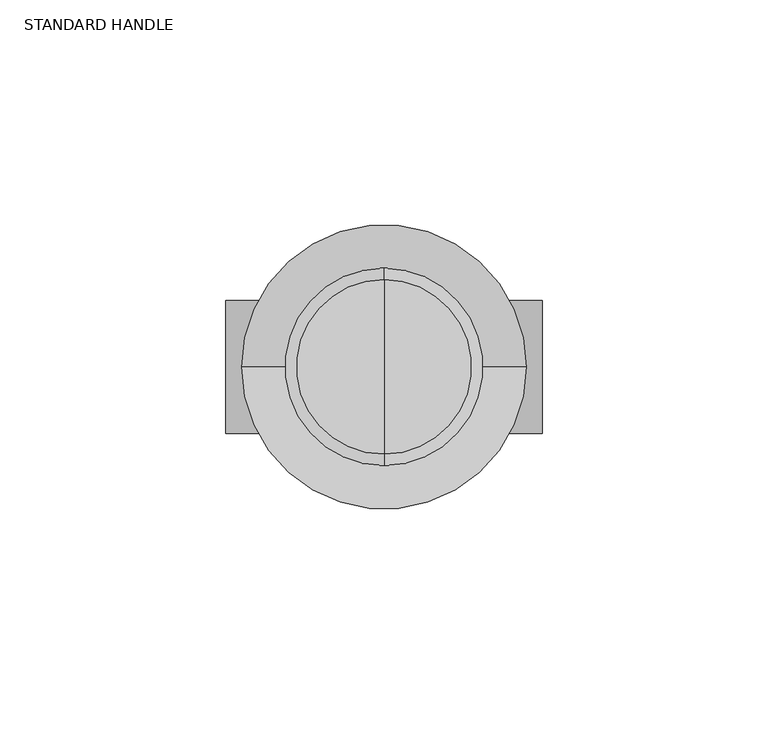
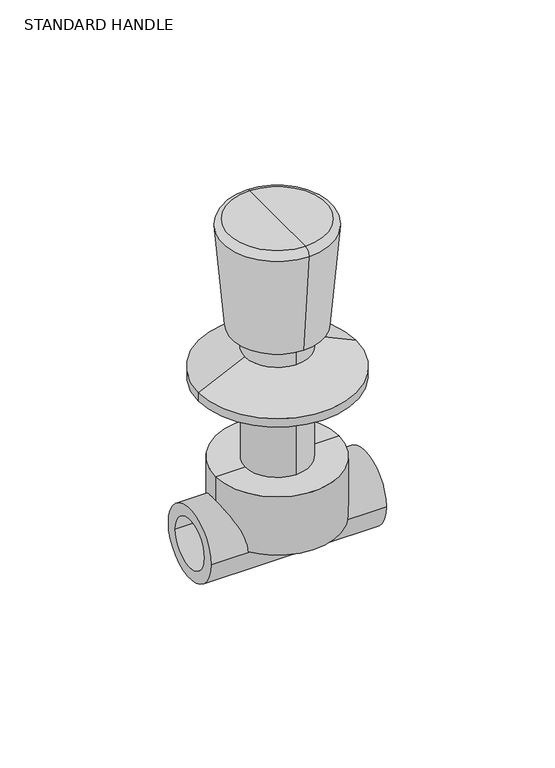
"""IFC4 building model written with IfcOpenShell, lengths in millimetres: valve geometry, Aquatherm - Concealed Valve Standard With Handle : STANDARD HANDLE."""

from ifc_helpers import new_model, si_unit, point, frame, origin, origin_2d, place, context, project, spatial, polyline, circle_curve, ellipse_curve, trimmed, segment, composite_curve, outline, extrude, source, transform, mapped, element, save
from ifc_brep_helpers import plane_surface, cylinder_surface, revolved_surface, advanced_brep


def standard_handle_8da0114c(model_context):
    return source(origin(), model_context, "Body", "SolidModel", [
        advanced_brep(
        [(0.0, 19.3406564, 124.968), (0.0, -19.3406564, 124.968), (0.0, 0.0, 124.968), (0.0, 21.870991, 122.2066244), (0.0, -21.870991, 122.2066244), (0.0, 18.2125979, 80.391), (0.0, -18.2125979, 80.391), (0.0, 12.9442633, 80.391), (0.0, -12.9442633, 80.391), (0.0, 12.9442633, 71.181595), (0.0, -12.9442633, 71.181595), (0.0, 0.0, 71.181595)],
        [
            (0, 1, circle_curve(frame((0.0, 0.0, 124.968), z_axis=(0.0, 0.0, 1.0), x_axis=(0.0, -1.0, 0.0)), 19.3406564)),
            (1, 2),
            (2, 0),
            (1, 0, circle_curve(frame((0.0, 0.0, 124.968), z_axis=(0.0, 0.0, 1.0), x_axis=(0.0, -1.0, 0.0)), 19.3406564)),
            (3, 4, circle_curve(frame((0.0, 0.0, 122.2066244), z_axis=(0.0, 0.0, 1.0), x_axis=(0.0, -1.0, 0.0)), 21.870991)),
            (4, 1, circle_curve(frame((0.0, -19.3406564, 122.428), z_axis=(-1.0, 0.0, 0.0), x_axis=(0.0, -1.0, 0.0)), 2.54)),
            (0, 3, circle_curve(frame((0.0, 19.3406564, 122.428), z_axis=(-1.0, 0.0, 0.0), x_axis=(0.0, 1.0, 0.0)), 2.54)),
            (4, 3, circle_curve(frame((0.0, 0.0, 122.2066244), z_axis=(0.0, 0.0, 1.0), x_axis=(0.0, -1.0, 0.0)), 21.870991)),
            (5, 6, circle_curve(frame((0.0, 0.0, 80.391), z_axis=(0.0, 0.0, 1.0), x_axis=(0.0, -1.0, 0.0)), 18.2125979)),
            (6, 4),
            (3, 5),
            (6, 5, circle_curve(frame((0.0, 0.0, 80.391), z_axis=(0.0, 0.0, 1.0), x_axis=(0.0, -1.0, 0.0)), 18.2125979)),
            (7, 8, circle_curve(frame((0.0, 0.0, 80.391), z_axis=(0.0, 0.0, 1.0), x_axis=(0.0, -1.0, 0.0)), 12.9442633)),
            (8, 6),
            (5, 7),
            (8, 7, circle_curve(frame((0.0, 0.0, 80.391), z_axis=(0.0, 0.0, 1.0), x_axis=(0.0, -1.0, 0.0)), 12.9442633)),
            (9, 10, circle_curve(frame((0.0, 0.0, 71.181595), z_axis=(0.0, 0.0, 1.0), x_axis=(0.0, -1.0, 0.0)), 12.9442633)),
            (10, 8),
            (7, 9),
            (10, 9, circle_curve(frame((0.0, 0.0, 71.181595), z_axis=(0.0, 0.0, 1.0), x_axis=(0.0, -1.0, 0.0)), 12.9442633)),
            (11, 10),
            (9, 11),
        ],
        [
            plane_surface(frame((0.0, 0.0, 124.968), z_axis=(0.0, 0.0, 1.0), x_axis=(0.0, -1.0, 0.0))),
            revolved_surface(trimmed(ellipse_curve(frame((0.0, -19.3406564, 122.428), z_axis=(1.0, 0.0, 0.0), x_axis=(0.0, -1.0, 0.0)), 2.54, 2.54), [point((0.0, -19.3406564, 124.968))], [point((0.0, -21.870991, 122.2066244))], True, "CARTESIAN"), (0.0, 0.0, 147.5476097), (0.0, 0.0, -1.0)),
            revolved_surface(polyline([(0.0, -21.870991, 122.2066244), (0.0, -18.2125979, 80.391)]), (0.0, 0.0, 147.5476097), (0.0, 0.0, -1.0)),
            plane_surface(frame((0.0, 0.0, 80.391), z_axis=(0.0, 0.0, -1.0), x_axis=(0.0, -1.0, 0.0))),
            cylinder_surface(frame((0.0, 0.0, 147.5476097), z_axis=(0.0, 0.0, -1.0), x_axis=(0.0, -1.0, 0.0)), 12.9442633),
            plane_surface(frame((0.0, 0.0, 71.181595), z_axis=(0.0, 0.0, -1.0), x_axis=(0.0, -1.0, 0.0))),
        ],
        [
            (0, [[1, 2, 3]]),
            (0, [[4, -3, -2]]),
            (1, [[5, 6, -1, 7]]),
            (1, [[8, -7, -4, -6]]),
            (2, [[9, 10, -5, 11]]),
            (2, [[12, -11, -8, -10]]),
            (3, [[13, 14, -9, 15]]),
            (3, [[16, -15, -12, -14]]),
            (4, [[17, 18, -13, 19]]),
            (4, [[20, -19, -16, -18]]),
            (5, [[21, -17, 22]]),
            (5, [[-22, -20, -21]]),
        ],
    ),
        advanced_brep(
        [(-12.827, 0.0, 71.181595), (12.827, 0.0, 71.181595), (-31.496, 0.0, 62.4797667), (31.496, 0.0, 62.4797667)],
        [
            (0, 1, circle_curve(frame((0.0, 0.0, 71.181595), z_axis=(0.0, 0.0, 1.0), x_axis=(-1.0, 0.0, 0.0)), 12.827)),
            (1, 0, circle_curve(frame((0.0, 0.0, 71.181595), z_axis=(0.0, 0.0, 1.0), x_axis=(1.0, 0.0, 0.0)), 12.827)),
            (2, 3, circle_curve(frame((0.0, 0.0, 62.4797667), z_axis=(0.0, 0.0, -1.0), x_axis=(1.0, 0.0, 0.0)), 31.496)),
            (3, 2, circle_curve(frame((0.0, 0.0, 62.4797667), z_axis=(0.0, 0.0, -1.0), x_axis=(-1.0, 0.0, 0.0)), 31.496)),
            (3, 1),
            (0, 2),
        ],
        [
            plane_surface(frame((0.0, 0.0, 71.181595), z_axis=(0.0, 0.0, 1.0), x_axis=(0.0, -1.0, 0.0))),
            plane_surface(frame((0.0, 0.0, 62.4797667), z_axis=(0.0, 0.0, -1.0), x_axis=(0.0, -1.0, 0.0))),
            revolved_surface(polyline([(-12.827000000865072, 0.0, 71.181595), (-31.496, 0.0, 62.4797667)]), (0.0, 0.0, 77.1604022), (0.0, 0.0, -1.0)),
            revolved_surface(polyline([(12.827000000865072, 0.0, 71.181595), (31.496, 0.0, 62.4797667)]), (0.0, 0.0, 77.1604022), (0.0, 0.0, -1.0)),
        ],
        [
            (0, [[1, 2]]),
            (1, [[3, 4]]),
            (2, [[-4, 5, -1, 6]]),
            (3, [[-3, -6, -2, -5]]),
        ],
    ),
        extrude(outline(composite_curve([segment(trimmed(circle_curve(origin_2d(), 31.496), [point((-31.496, 0.0))], [point((31.496, 0.0))], False, "CARTESIAN"), True, "CONTINUOUS"), segment(trimmed(circle_curve(origin_2d(), 31.496), [point((31.496, 0.0))], [point((-31.496, 0.0))], False, "CARTESIAN"), True, "CONTINUOUS")], self_intersect=False)), frame((0.0, 0.0, 58.928), z_axis=(0.0, 0.0, 1.0), x_axis=(1.0, 0.0, 0.0)), (0.0, 0.0, 1.0), 3.5517667),
        extrude(outline(composite_curve([segment(trimmed(circle_curve(origin_2d(), 12.827), [point((0.0, 12.827))], [point((0.0, -12.827))], False, "CARTESIAN"), True, "CONTINUOUS"), segment(trimmed(circle_curve(origin_2d(), 12.827), [point((0.0, -12.827))], [point((0.0, 12.827))], False, "CARTESIAN"), True, "CONTINUOUS")], self_intersect=False)), frame((0.0, 0.0, 24.638), z_axis=(0.0, 0.0, 1.0), x_axis=(1.0, 0.0, 0.0)), (0.0, 0.0, 1.0), 34.29),
        advanced_brep(
        [(0.0, 0.0, 24.638), (24.638, 0.0, 24.638), (-24.638, 0.0, 24.638), (-24.638, 0.0, 0.0), (24.638, 0.0, 0.0), (0.0, 0.0, 0.0)],
        [
            (0, 1),
            (1, 2, circle_curve(frame((0.0, 0.0, 24.638), z_axis=(0.0, 0.0, 1.0), x_axis=(1.0, 0.0, 0.0)), 24.638)),
            (2, 0),
            (2, 1, circle_curve(frame((0.0, 0.0, 24.638), z_axis=(0.0, 0.0, 1.0), x_axis=(1.0, 0.0, 0.0)), 24.638)),
            (3, 4, circle_curve(frame((0.0, 0.0, 0.0), z_axis=(0.0, 0.0, -1.0), x_axis=(1.0, 0.0, 0.0)), 24.638)),
            (4, 5),
            (5, 3),
            (4, 3, circle_curve(frame((0.0, 0.0, 0.0), z_axis=(0.0, 0.0, -1.0), x_axis=(1.0, 0.0, 0.0)), 24.638)),
            (1, 4),
            (3, 2),
        ],
        [
            plane_surface(frame((0.0, 0.0, 24.638), z_axis=(0.0, 0.0, 1.0), x_axis=(1.0, 0.0, 0.0))),
            plane_surface(frame((0.0, 0.0, 0.0), z_axis=(0.0, 0.0, -1.0), x_axis=(1.0, 0.0, 0.0))),
            cylinder_surface(frame((0.0, 0.0, 60.5254888), z_axis=(0.0, 0.0, 1.0), x_axis=(1.0, 0.0, 0.0)), 24.638),
        ],
        [
            (0, [[1, 2, 3]]),
            (0, [[-3, 4, -1]]),
            (1, [[5, 6, 7]]),
            (1, [[8, -7, -6]]),
            (2, [[-2, 9, -5, 10]]),
            (2, [[-4, -10, -8, -9]]),
        ],
    ),
        extrude(outline(composite_curve([segment(trimmed(circle_curve(origin_2d(), 14.732), [point((-14.732, 0.0))], [point((14.732, 0.0))], False, "CARTESIAN"), True, "CONTINUOUS"), segment(trimmed(circle_curve(origin_2d(), 14.732), [point((14.732, 0.0))], [point((-14.732, 0.0))], False, "CARTESIAN"), True, "CONTINUOUS")], self_intersect=False), holes=[composite_curve([segment(trimmed(circle_curve(origin_2d(), 10.033), [point((-10.033, 0.0))], [point((10.033, 0.0))], True, "CARTESIAN"), True, "CONTINUOUS"), segment(trimmed(circle_curve(origin_2d(), 10.033), [point((10.033, 0.0))], [point((-10.033, 0.0))], True, "CARTESIAN"), True, "CONTINUOUS")], self_intersect=False)]), frame((-35.052, 0.0, 0.0), z_axis=(1.0, 0.0, 0.0), x_axis=(0.0, 1.0, 0.0)), (0.0, 0.0, 1.0), 70.104),
    ])


if __name__ == "__main__":
    model = new_model("IFC4")
    model_context = context("Model", 3, world=origin())
    ifc_project = project(units=[si_unit("LENGTHUNIT", "METRE", prefix="MILLI")], contexts=[model_context])
    site = spatial("IfcSite", under=ifc_project)
    building = spatial("IfcBuilding", under=site)
    placement = place(None, origin())
    standard_handle_shape = standard_handle_8da0114c(model_context)
    element("IfcValve", 1, ObjectType="Aquatherm - Concealed Valve Standard With Handle : STANDARD HANDLE", at=placement, inside=building, context=model_context, shape_type="MappedRepresentation", body=[
        mapped(standard_handle_shape, transform((0.0, 0.0, 0.0), x_axis=(1.0, 0.0, 0.0), y_axis=(0.0, 1.0, 0.0), z_axis=(0.0, 0.0, 1.0))),
    ])
    save(model, "model.ifc")
